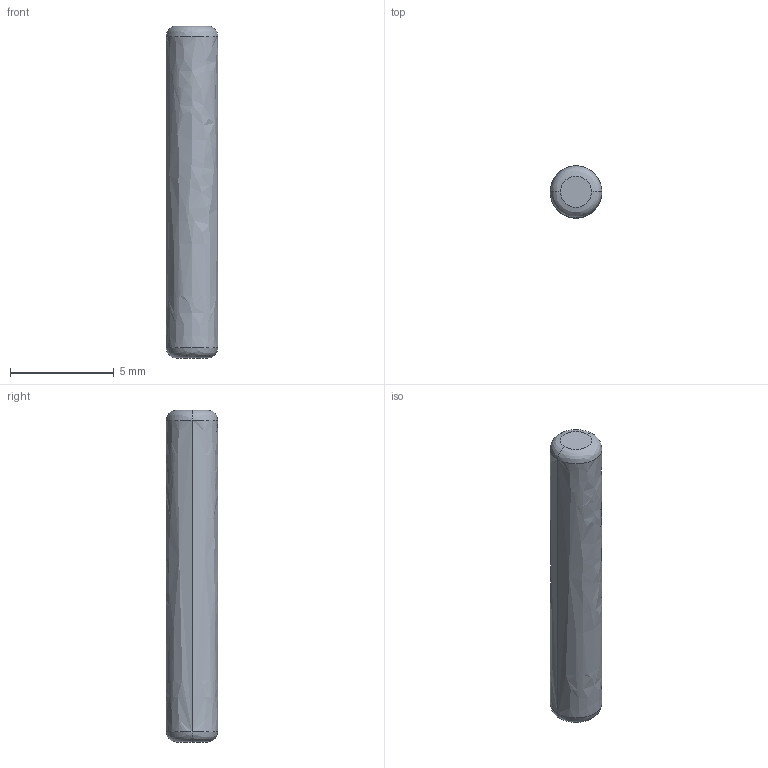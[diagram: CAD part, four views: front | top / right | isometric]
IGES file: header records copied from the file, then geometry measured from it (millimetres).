
Start section:  PTC IGES file: C:\Documents and Settings\audibk\personal\guns\walther\W alther_PPK\iges\stift-abzug.igs
Global section: file name: C:\Documents and Settings\audibk\personal\guns\walther\Walther_PPK\iges\stift-abzug.igs; native system: Pro/ENGINEER by Parametric Technology Corporation; preprocessor: 2002180; author: audibk; organization: Unknown; date: 030409.105322; units: millimetre
Bounding box: 2.5 x 2.5 x 16 mm (x, y, z)
Volume: 77.9 mm3; surface area: 132 mm2
Topology: 1 solids, 1 shells, 8 faces, 14 edges, 8 vertices
Faces by surface type: bspline 8
